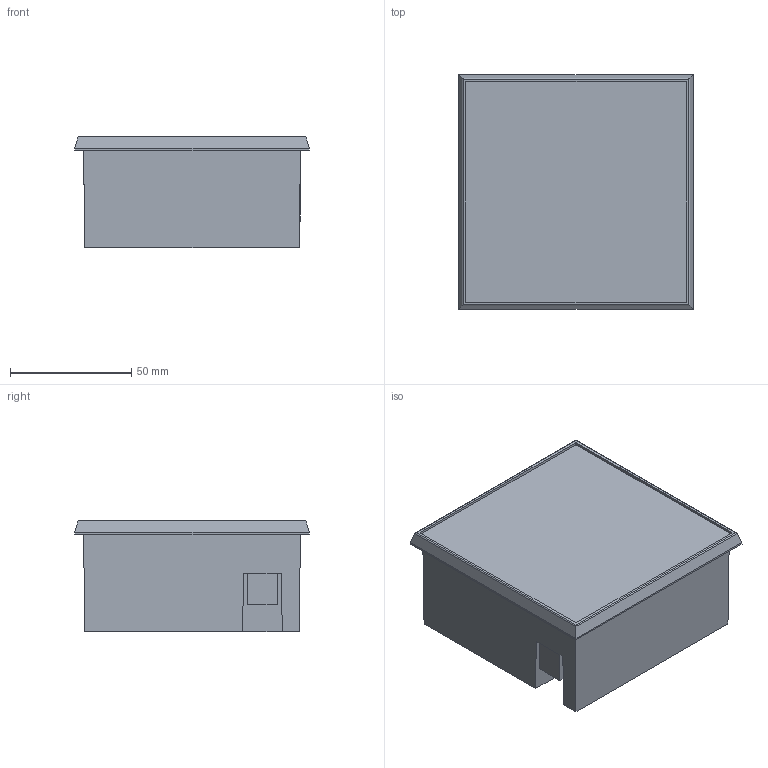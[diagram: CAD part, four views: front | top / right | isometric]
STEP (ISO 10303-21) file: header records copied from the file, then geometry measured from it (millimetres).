
FILE_DESCRIPTION (( 'STEP AP203' ), '1' );
FILE_NAME ('M0007 EPM-4C 96x96 220VAC TÝ Elektronik Ampermetre.STEP', '2023-02-09T08:41:20', ( '' ), ( '' ), 'SwSTEP 2.0', 'SolidWorks 2021', '' );
FILE_SCHEMA (( 'CONFIG_CONTROL_DESIGN' ));
Length unit declared in the file: millimetre
Products named in the file (1): M0007 EPM-4C 96x96 220VAC TÝ Elektronik Ampermetre
Bounding box: 97 x 97 x 46.2 mm (x, y, z)
Volume: 341505.4 mm3; surface area: 39533.8 mm2
Topology: 1 solids, 4 shells, 76 faces, 183 edges, 119 vertices
Faces by surface type: plane 68, cylinder 8
Entity records: 2235 total; most frequent: CARTESIAN_POINT 442, ORIENTED_EDGE 366, DIRECTION 316, EDGE_CURVE 183, VECTOR 162, LINE 162, VERTEX_POINT 119, EDGE_LOOP 80
